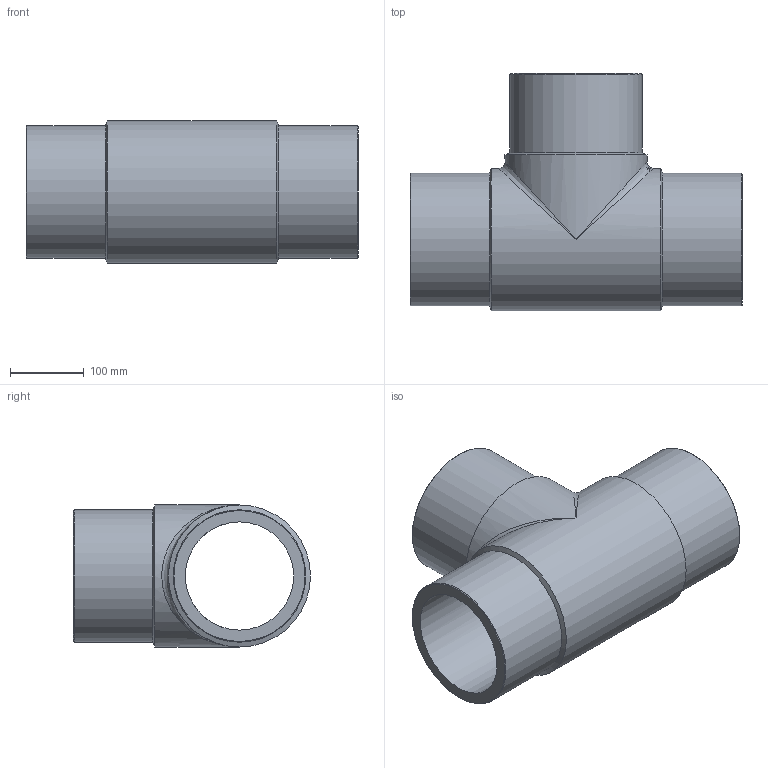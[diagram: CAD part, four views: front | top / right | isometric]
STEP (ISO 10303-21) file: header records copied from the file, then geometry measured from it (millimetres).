
FILE_DESCRIPTION(/* description */ ('Unknown'),/* implementation_level */ '2;1');
FILE_NAME(/* name */ 'TP180C',/* time_stamp */ '2021-08-04T16:56:58+02:00',/* author */ ('Unknown'),/* organization */ ('Unknown'),/* preprocessor_version */ 'ST-DEVELOPER v16.7',/* originating_system */ 'Solid Edge',/* authorisation */ 'Unknown');
FILE_SCHEMA (('AUTOMOTIVE_DESIGN {1 0 10303 214 3 1 1}'));
Length unit declared in the file: millimetre
Products named in the file (1): TP180C
Bounding box: 451 x 322 x 193 mm (x, y, z)
Volume: 5700439.3 mm3; surface area: 623051.7 mm2
Topology: 1 solids, 1 shells, 18 faces, 44 edges, 23 vertices
Faces by surface type: cylinder 7, cone 6, plane 3, bspline 2
Full cylindrical faces by diameter (mm): 147.2 x2, 180 x3, 193 x2
Entity records: 528 total; most frequent: CARTESIAN_POINT 171, DIRECTION 76, ORIENTED_EDGE 42, AXIS2_PLACEMENT_3D 38, EDGE_LOOP 36, FACE_BOUND 36, EDGE_CURVE 21, VERTEX_POINT 19
